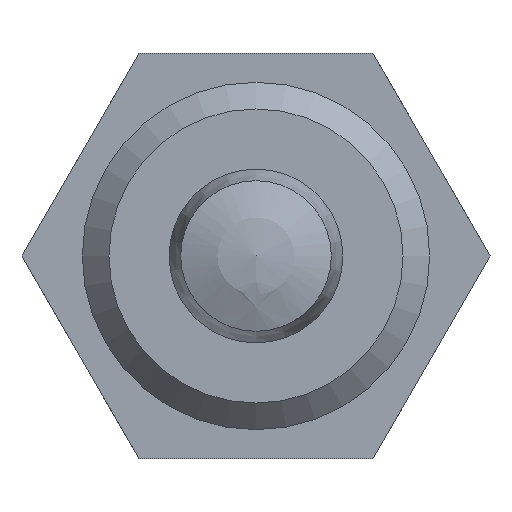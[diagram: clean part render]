
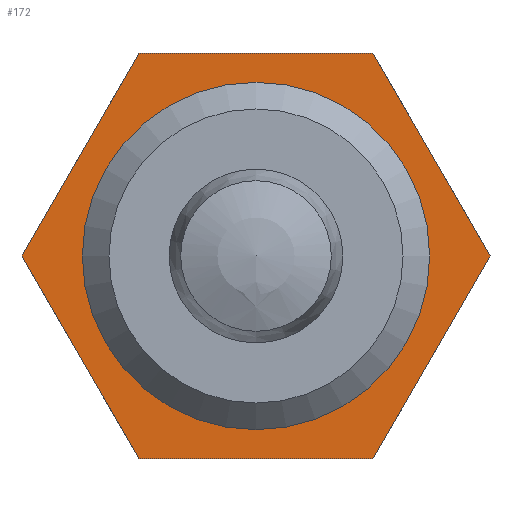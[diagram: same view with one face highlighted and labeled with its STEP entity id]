
A CAD part, front view. The second image highlights one B-rep face of the part: STEP entity #172.
In plain terms, the highlighted planar face has unit normal (0, -1, 0) as drawn and (-1, 0, 0) by its records, which use the part's own axes.
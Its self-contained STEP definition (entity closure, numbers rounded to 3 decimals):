
#172 = ADVANCED_FACE( '', ( #210, #211 ), #212, .T. );
#210 = FACE_BOUND( '', #291, .T. );
#211 = FACE_OUTER_BOUND( '', #292, .T. );
#212 = PLANE( '', #293 );
#291 = EDGE_LOOP( '', ( #381 ) );
#292 = EDGE_LOOP( '', ( #382, #383, #384, #385, #386, #387 ) );
#293 = AXIS2_PLACEMENT_3D( '', #388, #389, #390 );
#381 = ORIENTED_EDGE( '', *, *, #558, .T. );
#382 = ORIENTED_EDGE( '', *, *, #552, .F. );
#383 = ORIENTED_EDGE( '', *, *, #559, .F. );
#384 = ORIENTED_EDGE( '', *, *, #560, .T. );
#385 = ORIENTED_EDGE( '', *, *, #561, .F. );
#386 = ORIENTED_EDGE( '', *, *, #562, .F. );
#387 = ORIENTED_EDGE( '', *, *, #563, .F. );
#388 = CARTESIAN_POINT( '', ( 20., 8.4, 0. ) );
#389 = DIRECTION( '', ( -1., 0., 0. ) );
#390 = DIRECTION( '', ( 0., 0., 1. ) );
#552 = EDGE_CURVE( '', #599, #602, #603, .T. );
#558 = EDGE_CURVE( '', #613, #613, #614, .T. );
#559 = EDGE_CURVE( '', #615, #599, #616, .T. );
#560 = EDGE_CURVE( '', #615, #617, #618, .T. );
#561 = EDGE_CURVE( '', #619, #617, #620, .T. );
#562 = EDGE_CURVE( '', #621, #619, #622, .T. );
#563 = EDGE_CURVE( '', #602, #621, #623, .T. );
#599 = VERTEX_POINT( '', #681 );
#602 = VERTEX_POINT( '', #685 );
#603 = LINE( '', #686, #687 );
#613 = VERTEX_POINT( '', #710 );
#614 = CIRCLE( '', #711, 6. );
#615 = VERTEX_POINT( '', #712 );
#616 = LINE( '', #713, #714 );
#617 = VERTEX_POINT( '', #715 );
#618 = LINE( '', #716, #717 );
#619 = VERTEX_POINT( '', #718 );
#620 = LINE( '', #719, #720 );
#621 = VERTEX_POINT( '', #721 );
#622 = LINE( '', #722, #723 );
#623 = LINE( '', #724, #725 );
#681 = CARTESIAN_POINT( '', ( 20., 0., 8.083 ) );
#685 = CARTESIAN_POINT( '', ( 20., -7., 4.041 ) );
#686 = CARTESIAN_POINT( '', ( 20., 0., 8.083 ) );
#687 = VECTOR( '', #844, 1000. );
#710 = CARTESIAN_POINT( '', ( 20., 0., -6. ) );
#711 = AXIS2_PLACEMENT_3D( '', #852, #853, #854 );
#712 = CARTESIAN_POINT( '', ( 20., 7., 4.041 ) );
#713 = CARTESIAN_POINT( '', ( 20., 7., 4.041 ) );
#714 = VECTOR( '', #855, 1000. );
#715 = CARTESIAN_POINT( '', ( 20., 7., -4.041 ) );
#716 = CARTESIAN_POINT( '', ( 20., 7., 0. ) );
#717 = VECTOR( '', #856, 1000. );
#718 = CARTESIAN_POINT( '', ( 20., 0., -8.083 ) );
#719 = CARTESIAN_POINT( '', ( 20., 0., -8.083 ) );
#720 = VECTOR( '', #857, 1000. );
#721 = CARTESIAN_POINT( '', ( 20., -7., -4.041 ) );
#722 = CARTESIAN_POINT( '', ( 20., -7., -4.041 ) );
#723 = VECTOR( '', #858, 1000. );
#724 = CARTESIAN_POINT( '', ( 20., -7., 4.041 ) );
#725 = VECTOR( '', #859, 1000. );
#844 = DIRECTION( '', ( 0., -0.866, -0.5 ) );
#852 = CARTESIAN_POINT( '', ( 20., 0., 0. ) );
#853 = DIRECTION( '', ( 1., 0., 0. ) );
#854 = DIRECTION( '', ( 0., 0., -1. ) );
#855 = DIRECTION( '', ( 0., -0.866, 0.5 ) );
#856 = DIRECTION( '', ( 0., 0., -1. ) );
#857 = DIRECTION( '', ( 0., 0.866, 0.5 ) );
#858 = DIRECTION( '', ( 0., 0.866, -0.5 ) );
#859 = DIRECTION( '', ( 0., 0., -1. ) );
